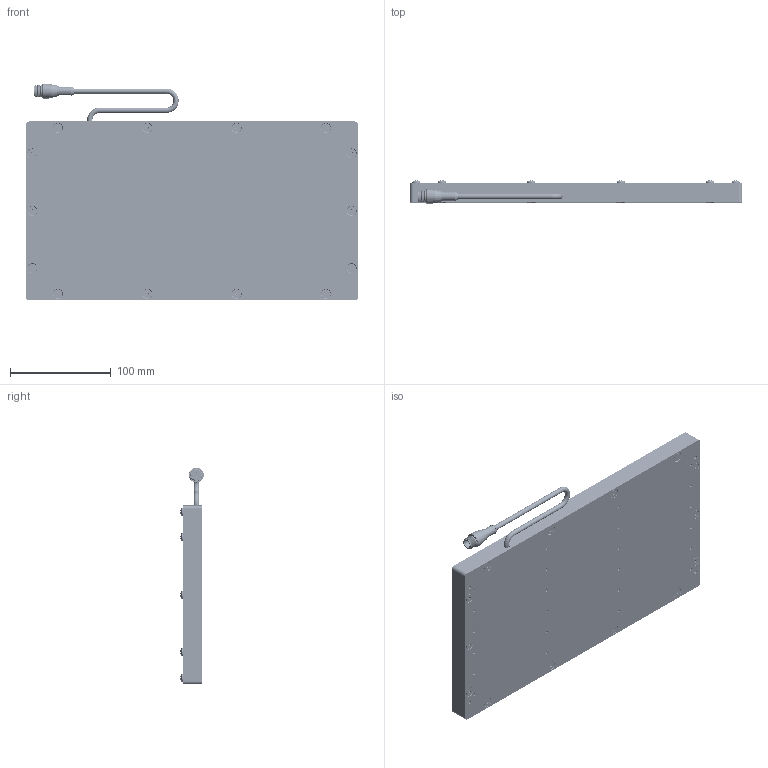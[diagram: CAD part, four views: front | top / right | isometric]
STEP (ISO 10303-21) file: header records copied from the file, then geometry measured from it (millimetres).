
FILE_DESCRIPTION (( 'STEP AP214' ), '1' );
FILE_NAME ('SBL612-XXX.STEP', '2026-04-17T19:14:33', ( '' ), ( '' ), 'SwSTEP 2.0', 'SolidWorks 2025', '' );
FILE_SCHEMA (( 'AUTOMOTIVE_DESIGN' ));
Length unit declared in the file: inch
Products named in the file (12): WD-SBLYYXX_6x12 with holes; SC Pigtail Complete 18_5pin; M12 Connector 4,5 and 8 pin_RS4.5T; SBL612-XXX; SBL3 to 18in rail_12in No CG; Hex Standoff .375 x 8-32; 8-32 x .375 Nylon Screw_.375" 94611A192; 8-32 x 0.375 FHCS (92210A192)_92210A192; SBL3 to 18in rail_12in rail; BackPlate BLYYXX_0612; SBL3 to 18in rail_06in No CG; MC Pigtail 24
Assembly tree (51 placements, depth 3):
  SBL612-XXX
    BackPlate BLYYXX_0612
    SBL3 to 18in rail_12in rail
    SBL3 to 18in rail_12in No CG
    SBL3 to 18in rail_06in No CG  x2
    SC Pigtail Complete 18_5pin
      MC Pigtail 24
      M12 Connector 4,5 and 8 pin_RS4.5T
    WD-SBLYYXX_6x12 with holes
    Hex Standoff .375 x 8-32  x14
    8-32 x 0.375 FHCS (92210A192)_92210A192  x14
    8-32 x .375 Nylon Screw_.375" 94611A192  x14
Bounding box: 330.2 x 23.38 x 215.33 mm (x, y, z)
Volume: 523242.6 mm3; surface area: 319738.5 mm2
Topology: 50 solids, 50 shells, 1586 faces, 3946 edges, 2517 vertices
Faces by surface type: plane 595, bspline 378, cylinder 324, cone 243, torus 27, sphere 19
Full cylindrical faces by diameter (mm): 0.762 x5, 2.705 x24, 3.454 x18, 4.496 x42, 5.207 x3, 6.604 x8, 6.858 x14, 8.128 x14, 8.382 x1, 8.636 x1, 9.119 x14, 10.16 x1, 10.541 x1, 11.938 x1, 13.716 x2, 14.732 x1
Entity records: 19051 total; most frequent: CARTESIAN_POINT 6132, DIRECTION 2395, ORIENTED_EDGE 2016, EDGE_CURVE 1008, AXIS2_PLACEMENT_3D 983, EDGE_LOOP 791, VERTEX_POINT 749, FACE_OUTER_BOUND 577
